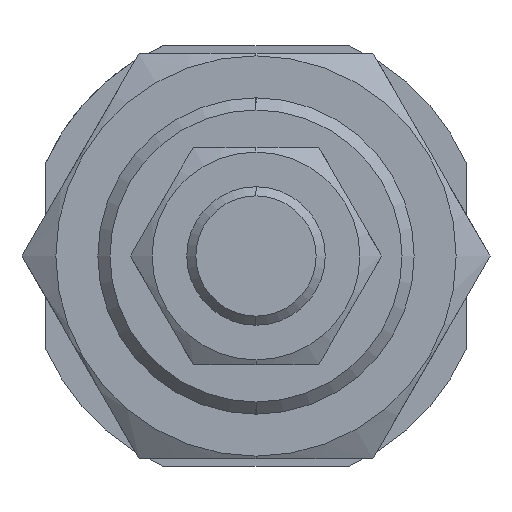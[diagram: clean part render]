
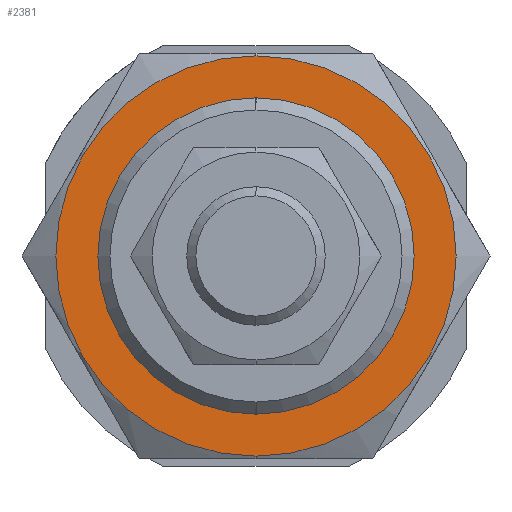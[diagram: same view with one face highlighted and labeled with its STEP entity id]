
A CAD part, left-side view. The second image highlights one B-rep face of the part: STEP entity #2381.
In plain terms, the highlighted planar face has unit normal (-1, 0, 0).
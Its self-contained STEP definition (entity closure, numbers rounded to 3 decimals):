
#161 = CARTESIAN_POINT ( 'NONE',  ( -13., 0., 0. ) ) ;
#285 = VERTEX_POINT ( 'NONE', #883 ) ;
#533 = EDGE_LOOP ( 'NONE', ( #1983, #1467 ) ) ;
#650 = DIRECTION ( 'NONE',  ( 1., 0., 0. ) ) ;
#784 = AXIS2_PLACEMENT_3D ( 'NONE', #1526, #650, #4163 ) ;
#883 = CARTESIAN_POINT ( 'NONE',  ( -13., 0., 20.25 ) ) ;
#1049 = CARTESIAN_POINT ( 'NONE',  ( -13., 0., 16. ) ) ;
#1204 = DIRECTION ( 'NONE',  ( 0., 1., 0. ) ) ;
#1443 = CIRCLE ( 'NONE', #2092, 20.25 ) ;
#1467 = ORIENTED_EDGE ( 'NONE', *, *, #4479, .F. ) ;
#1517 = VERTEX_POINT ( 'NONE', #1628 ) ;
#1526 = CARTESIAN_POINT ( 'NONE',  ( -13., 0., 0. ) ) ;
#1575 = EDGE_LOOP ( 'NONE', ( #3894, #4127 ) ) ;
#1628 = CARTESIAN_POINT ( 'NONE',  ( -13., 0., -20.25 ) ) ;
#1726 = DIRECTION ( 'NONE',  ( 0., 0., -1. ) ) ;
#1826 = CIRCLE ( 'NONE', #5068, 16. ) ;
#1983 = ORIENTED_EDGE ( 'NONE', *, *, #4385, .F. ) ;
#2092 = AXIS2_PLACEMENT_3D ( 'NONE', #5238, #2230, #4782 ) ;
#2112 = FACE_BOUND ( 'NONE', #1575, .T. ) ;
#2189 = AXIS2_PLACEMENT_3D ( 'NONE', #161, #4054, #4133 ) ;
#2230 = DIRECTION ( 'NONE',  ( 1., 0., 0. ) ) ;
#2381 = ADVANCED_FACE ( 'NONE', ( #4752, #2112 ), #3869, .F. ) ;
#2472 = CARTESIAN_POINT ( 'NONE',  ( -13., 0., 0. ) ) ;
#2909 = CIRCLE ( 'NONE', #2189, 20.25 ) ;
#3590 = AXIS2_PLACEMENT_3D ( 'NONE', #5643, #5181, #1204 ) ;
#3803 = DIRECTION ( 'NONE',  ( 1., 0., 0. ) ) ;
#3869 = PLANE ( 'NONE',  #3590 ) ;
#3874 = EDGE_CURVE ( 'NONE', #5112, #5664, #5139, .T. ) ;
#3894 = ORIENTED_EDGE ( 'NONE', *, *, #5569, .T. ) ;
#4054 = DIRECTION ( 'NONE',  ( 1., 0., 0. ) ) ;
#4127 = ORIENTED_EDGE ( 'NONE', *, *, #3874, .T. ) ;
#4133 = DIRECTION ( 'NONE',  ( 0., 0., -1. ) ) ;
#4143 = CARTESIAN_POINT ( 'NONE',  ( -13., 0., -16. ) ) ;
#4163 = DIRECTION ( 'NONE',  ( 0., 0., -1. ) ) ;
#4385 = EDGE_CURVE ( 'NONE', #1517, #285, #1443, .T. ) ;
#4479 = EDGE_CURVE ( 'NONE', #285, #1517, #2909, .T. ) ;
#4752 = FACE_OUTER_BOUND ( 'NONE', #533, .T. ) ;
#4782 = DIRECTION ( 'NONE',  ( 0., 0., -1. ) ) ;
#5068 = AXIS2_PLACEMENT_3D ( 'NONE', #2472, #3803, #1726 ) ;
#5112 = VERTEX_POINT ( 'NONE', #4143 ) ;
#5139 = CIRCLE ( 'NONE', #784, 16. ) ;
#5181 = DIRECTION ( 'NONE',  ( 1., 0., 0. ) ) ;
#5238 = CARTESIAN_POINT ( 'NONE',  ( -13., 0., 0. ) ) ;
#5569 = EDGE_CURVE ( 'NONE', #5664, #5112, #1826, .T. ) ;
#5643 = CARTESIAN_POINT ( 'NONE',  ( -13., 0., 0. ) ) ;
#5664 = VERTEX_POINT ( 'NONE', #1049 ) ;
